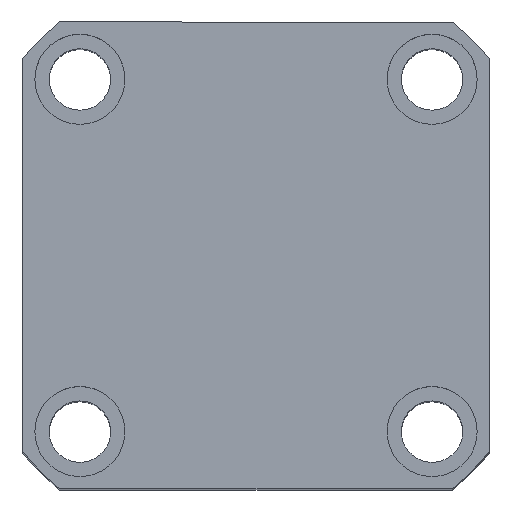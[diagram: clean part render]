
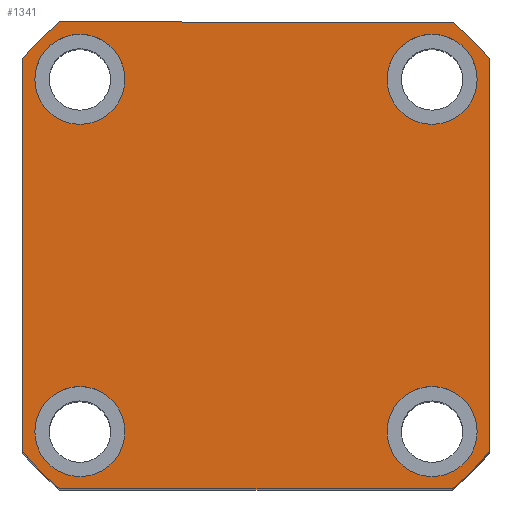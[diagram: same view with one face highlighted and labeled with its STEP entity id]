
A CAD part, top view. The second image highlights one B-rep face of the part: STEP entity #1341.
In plain terms, the highlighted planar face has unit normal (0, 0, 1) as drawn and (0, 0, -1) by its records, which use the part's own axes.
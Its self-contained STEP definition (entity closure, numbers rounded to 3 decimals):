
#6 = CARTESIAN_POINT ( 'NONE',  ( -57., 57., 0. ) ) ;
#78 = EDGE_CURVE ( 'NONE', #15268, #11125, #11183, .T. ) ;
#228 = CIRCLE ( 'NONE', #15086, 11. ) ;
#245 = AXIS2_PLACEMENT_3D ( 'NONE', #14908, #14216, #14167 ) ;
#304 = CARTESIAN_POINT ( 'NONE',  ( -43., -43., 0. ) ) ;
#517 = AXIS2_PLACEMENT_3D ( 'NONE', #8840, #1787, #10032 ) ;
#558 = DIRECTION ( 'NONE',  ( -1., 0., 0. ) ) ;
#611 = EDGE_CURVE ( 'NONE', #4543, #12045, #1059, .T. ) ;
#849 = AXIS2_PLACEMENT_3D ( 'NONE', #304, #8520, #1465 ) ;
#881 = ORIENTED_EDGE ( 'NONE', *, *, #4781, .F. ) ;
#930 = DIRECTION ( 'NONE',  ( -1., 0., 0. ) ) ;
#1059 = CIRCLE ( 'NONE', #245, 11. ) ;
#1341 = ADVANCED_FACE ( 'NONE', ( #14692, #8774, #11910, #2515, #12274 ), #13616, .F. ) ;
#1405 = ORIENTED_EDGE ( 'NONE', *, *, #4465, .F. ) ;
#1455 = CARTESIAN_POINT ( 'NONE',  ( -57., 57., 0. ) ) ;
#1465 = DIRECTION ( 'NONE',  ( -1., 0., 0. ) ) ;
#1501 = CARTESIAN_POINT ( 'NONE',  ( 57., 57., 0. ) ) ;
#1545 = ORIENTED_EDGE ( 'NONE', *, *, #9507, .F. ) ;
#1787 = DIRECTION ( 'NONE',  ( 0., 0., -1. ) ) ;
#1917 = EDGE_LOOP ( 'NONE', ( #11921, #6399 ) ) ;
#1984 = VERTEX_POINT ( 'NONE', #8395 ) ;
#2160 = CARTESIAN_POINT ( 'NONE',  ( 47.971, 57., 0. ) ) ;
#2401 = CIRCLE ( 'NONE', #7235, 74.5 ) ;
#2515 = FACE_BOUND ( 'NONE', #5422, .T. ) ;
#2557 = DIRECTION ( 'NONE',  ( 0., 0., 1. ) ) ;
#2585 = CARTESIAN_POINT ( 'NONE',  ( 0., 0., 0. ) ) ;
#2645 = CARTESIAN_POINT ( 'NONE',  ( -47.971, -57., 0. ) ) ;
#2690 = VERTEX_POINT ( 'NONE', #8845 ) ;
#2967 = LINE ( 'NONE', #1455, #8502 ) ;
#3029 = LINE ( 'NONE', #12908, #15214 ) ;
#3439 = ORIENTED_EDGE ( 'NONE', *, *, #4960, .F. ) ;
#3494 = EDGE_CURVE ( 'NONE', #11125, #15268, #10491, .T. ) ;
#3779 = DIRECTION ( 'NONE',  ( 1., 0., 0. ) ) ;
#3982 = CARTESIAN_POINT ( 'NONE',  ( 54., -43., 0. ) ) ;
#4157 = ORIENTED_EDGE ( 'NONE', *, *, #11638, .F. ) ;
#4315 = VERTEX_POINT ( 'NONE', #14300 ) ;
#4434 = CARTESIAN_POINT ( 'NONE',  ( 0., 0., 0. ) ) ;
#4465 = EDGE_CURVE ( 'NONE', #8710, #8947, #10136, .T. ) ;
#4476 = AXIS2_PLACEMENT_3D ( 'NONE', #10382, #10333, #10282 ) ;
#4543 = VERTEX_POINT ( 'NONE', #5099 ) ;
#4619 = CARTESIAN_POINT ( 'NONE',  ( -43., -43., 0. ) ) ;
#4727 = DIRECTION ( 'NONE',  ( -1., 0., 0. ) ) ;
#4733 = EDGE_LOOP ( 'NONE', ( #6783, #14266 ) ) ;
#4779 = EDGE_CURVE ( 'NONE', #4315, #11684, #2401, .T. ) ;
#4781 = EDGE_CURVE ( 'NONE', #12045, #4543, #8296, .T. ) ;
#4954 = CARTESIAN_POINT ( 'NONE',  ( 43., 43., 0. ) ) ;
#4960 = EDGE_CURVE ( 'NONE', #8013, #1984, #11051, .T. ) ;
#5099 = CARTESIAN_POINT ( 'NONE',  ( 32., -43., 0. ) ) ;
#5422 = EDGE_LOOP ( 'NONE', ( #8359, #7153 ) ) ;
#5572 = EDGE_CURVE ( 'NONE', #8947, #11769, #11600, .T. ) ;
#5627 = DIRECTION ( 'NONE',  ( 1., 0., 0. ) ) ;
#5814 = DIRECTION ( 'NONE',  ( -1., 0., 0. ) ) ;
#6148 = DIRECTION ( 'NONE',  ( -1., 0., 0. ) ) ;
#6399 = ORIENTED_EDGE ( 'NONE', *, *, #10893, .F. ) ;
#6783 = ORIENTED_EDGE ( 'NONE', *, *, #3494, .F. ) ;
#6834 = DIRECTION ( 'NONE',  ( 0., 0., 1. ) ) ;
#6934 = ORIENTED_EDGE ( 'NONE', *, *, #4779, .F. ) ;
#6982 = AXIS2_PLACEMENT_3D ( 'NONE', #14688, #7609, #558 ) ;
#7091 = EDGE_LOOP ( 'NONE', ( #1405, #1545, #3439, #10811, #6934, #4157, #7304, #12827 ) ) ;
#7153 = ORIENTED_EDGE ( 'NONE', *, *, #15140, .F. ) ;
#7235 = AXIS2_PLACEMENT_3D ( 'NONE', #4434, #12686, #5627 ) ;
#7289 = VERTEX_POINT ( 'NONE', #15094 ) ;
#7304 = ORIENTED_EDGE ( 'NONE', *, *, #10809, .F. ) ;
#7372 = CARTESIAN_POINT ( 'NONE',  ( -47.971, 57., 0. ) ) ;
#7451 = EDGE_LOOP ( 'NONE', ( #9161, #881 ) ) ;
#7462 = AXIS2_PLACEMENT_3D ( 'NONE', #2585, #10843, #3779 ) ;
#7535 = DIRECTION ( 'NONE',  ( 0., 1., 0. ) ) ;
#7609 = DIRECTION ( 'NONE',  ( 0., 0., -1. ) ) ;
#7979 = DIRECTION ( 'NONE',  ( 0., 0., -1. ) ) ;
#8008 = AXIS2_PLACEMENT_3D ( 'NONE', #15069, #7979, #930 ) ;
#8013 = VERTEX_POINT ( 'NONE', #10198 ) ;
#8296 = CIRCLE ( 'NONE', #8008, 11. ) ;
#8333 = CIRCLE ( 'NONE', #849, 11. ) ;
#8359 = ORIENTED_EDGE ( 'NONE', *, *, #8703, .F. ) ;
#8395 = CARTESIAN_POINT ( 'NONE',  ( 57., -47.971, 0. ) ) ;
#8474 = VECTOR ( 'NONE', #4727, 1000. ) ;
#8502 = VECTOR ( 'NONE', #9690, 1000. ) ;
#8520 = DIRECTION ( 'NONE',  ( 0., 0., -1. ) ) ;
#8703 = EDGE_CURVE ( 'NONE', #13546, #15252, #12778, .T. ) ;
#8710 = VERTEX_POINT ( 'NONE', #12392 ) ;
#8774 = FACE_BOUND ( 'NONE', #7451, .T. ) ;
#8840 = CARTESIAN_POINT ( 'NONE',  ( -43., 43., 0. ) ) ;
#8845 = CARTESIAN_POINT ( 'NONE',  ( -57., 47.971, 0. ) ) ;
#8936 = CARTESIAN_POINT ( 'NONE',  ( 32., 43., 0. ) ) ;
#8947 = VERTEX_POINT ( 'NONE', #2160 ) ;
#9161 = ORIENTED_EDGE ( 'NONE', *, *, #611, .F. ) ;
#9507 = EDGE_CURVE ( 'NONE', #1984, #8710, #15001, .T. ) ;
#9582 = AXIS2_PLACEMENT_3D ( 'NONE', #13898, #6834, #15097 ) ;
#9602 = CARTESIAN_POINT ( 'NONE',  ( 0., 0., 0. ) ) ;
#9690 = DIRECTION ( 'NONE',  ( 0., -1., 0. ) ) ;
#10032 = DIRECTION ( 'NONE',  ( -1., 0., 0. ) ) ;
#10136 = CIRCLE ( 'NONE', #7462, 74.5 ) ;
#10181 = DIRECTION ( 'NONE',  ( 1., 0., 0. ) ) ;
#10198 = CARTESIAN_POINT ( 'NONE',  ( 47.971, -57., 0. ) ) ;
#10274 = CARTESIAN_POINT ( 'NONE',  ( -54., 43., 0. ) ) ;
#10282 = DIRECTION ( 'NONE',  ( -1., 0., 0. ) ) ;
#10333 = DIRECTION ( 'NONE',  ( 0., 0., -1. ) ) ;
#10382 = CARTESIAN_POINT ( 'NONE',  ( 43., 43., 0. ) ) ;
#10491 = CIRCLE ( 'NONE', #11988, 11. ) ;
#10620 = AXIS2_PLACEMENT_3D ( 'NONE', #9602, #2557, #10816 ) ;
#10809 = EDGE_CURVE ( 'NONE', #11769, #2690, #12566, .T. ) ;
#10811 = ORIENTED_EDGE ( 'NONE', *, *, #13641, .F. ) ;
#10816 = DIRECTION ( 'NONE',  ( 1., 0., 0. ) ) ;
#10843 = DIRECTION ( 'NONE',  ( 0., 0., 1. ) ) ;
#10893 = EDGE_CURVE ( 'NONE', #11866, #7289, #8333, .T. ) ;
#11051 = CIRCLE ( 'NONE', #9582, 74.5 ) ;
#11125 = VERTEX_POINT ( 'NONE', #8936 ) ;
#11183 = CIRCLE ( 'NONE', #4476, 11. ) ;
#11197 = DIRECTION ( 'NONE',  ( 1., 0., 0. ) ) ;
#11244 = DIRECTION ( 'NONE',  ( 0., 0., 1. ) ) ;
#11324 = CARTESIAN_POINT ( 'NONE',  ( 54., 43., 0. ) ) ;
#11358 = CARTESIAN_POINT ( 'NONE',  ( 0., 0., 0. ) ) ;
#11471 = EDGE_CURVE ( 'NONE', #7289, #11866, #228, .T. ) ;
#11583 = AXIS2_PLACEMENT_3D ( 'NONE', #11358, #11244, #11197 ) ;
#11600 = LINE ( 'NONE', #6, #8474 ) ;
#11638 = EDGE_CURVE ( 'NONE', #2690, #4315, #2967, .T. ) ;
#11684 = VERTEX_POINT ( 'NONE', #2645 ) ;
#11769 = VERTEX_POINT ( 'NONE', #7372 ) ;
#11833 = VECTOR ( 'NONE', #7535, 1000. ) ;
#11866 = VERTEX_POINT ( 'NONE', #14640 ) ;
#11910 = FACE_BOUND ( 'NONE', #4733, .T. ) ;
#11921 = ORIENTED_EDGE ( 'NONE', *, *, #11471, .F. ) ;
#11988 = AXIS2_PLACEMENT_3D ( 'NONE', #4954, #13206, #6148 ) ;
#12045 = VERTEX_POINT ( 'NONE', #3982 ) ;
#12274 = FACE_OUTER_BOUND ( 'NONE', #7091, .T. ) ;
#12392 = CARTESIAN_POINT ( 'NONE',  ( 57., 47.971, 0. ) ) ;
#12566 = CIRCLE ( 'NONE', #10620, 74.5 ) ;
#12686 = DIRECTION ( 'NONE',  ( 0., 0., 1. ) ) ;
#12778 = CIRCLE ( 'NONE', #6982, 11. ) ;
#12827 = ORIENTED_EDGE ( 'NONE', *, *, #5572, .F. ) ;
#12859 = DIRECTION ( 'NONE',  ( 0., 0., -1. ) ) ;
#12908 = CARTESIAN_POINT ( 'NONE',  ( -57., -57., 0. ) ) ;
#13206 = DIRECTION ( 'NONE',  ( 0., 0., -1. ) ) ;
#13546 = VERTEX_POINT ( 'NONE', #10274 ) ;
#13616 = PLANE ( 'NONE',  #11583 ) ;
#13641 = EDGE_CURVE ( 'NONE', #11684, #8013, #3029, .T. ) ;
#13642 = CARTESIAN_POINT ( 'NONE',  ( -32., 43., 0. ) ) ;
#13898 = CARTESIAN_POINT ( 'NONE',  ( 0., 0., 0. ) ) ;
#14167 = DIRECTION ( 'NONE',  ( -1., 0., 0. ) ) ;
#14216 = DIRECTION ( 'NONE',  ( 0., 0., -1. ) ) ;
#14266 = ORIENTED_EDGE ( 'NONE', *, *, #78, .F. ) ;
#14300 = CARTESIAN_POINT ( 'NONE',  ( -57., -47.971, 0. ) ) ;
#14640 = CARTESIAN_POINT ( 'NONE',  ( -32., -43., 0. ) ) ;
#14688 = CARTESIAN_POINT ( 'NONE',  ( -43., 43., 0. ) ) ;
#14692 = FACE_BOUND ( 'NONE', #1917, .T. ) ;
#14831 = CIRCLE ( 'NONE', #517, 11. ) ;
#14908 = CARTESIAN_POINT ( 'NONE',  ( 43., -43., 0. ) ) ;
#15001 = LINE ( 'NONE', #1501, #11833 ) ;
#15069 = CARTESIAN_POINT ( 'NONE',  ( 43., -43., 0. ) ) ;
#15086 = AXIS2_PLACEMENT_3D ( 'NONE', #4619, #12859, #5814 ) ;
#15094 = CARTESIAN_POINT ( 'NONE',  ( -54., -43., 0. ) ) ;
#15097 = DIRECTION ( 'NONE',  ( 1., 0., 0. ) ) ;
#15140 = EDGE_CURVE ( 'NONE', #15252, #13546, #14831, .T. ) ;
#15214 = VECTOR ( 'NONE', #10181, 1000. ) ;
#15252 = VERTEX_POINT ( 'NONE', #13642 ) ;
#15268 = VERTEX_POINT ( 'NONE', #11324 ) ;
